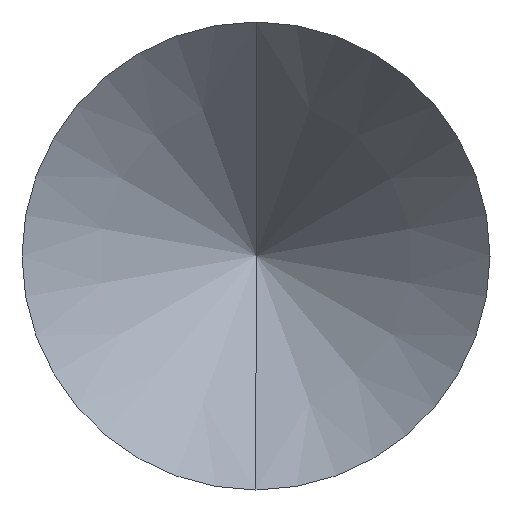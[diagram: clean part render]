
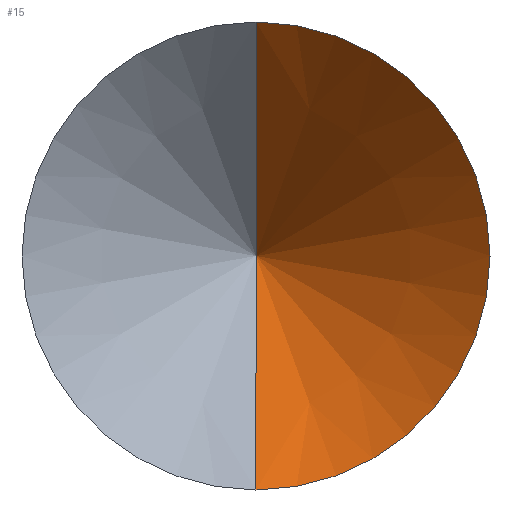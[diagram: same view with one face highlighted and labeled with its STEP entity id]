
A CAD part, left-side view. The second image highlights one B-rep face of the part: STEP entity #15.
In plain terms, the highlighted conical face has half-angle 45 degrees and reference radius 1000 mm.
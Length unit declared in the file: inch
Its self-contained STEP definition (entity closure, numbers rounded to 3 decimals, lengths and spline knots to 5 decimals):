
#7 = CIRCLE ( 'NONE', #949, 0.0175 ) ;
#15 = ADVANCED_FACE ( 'NONE', ( #400 ), #516, .F. ) ;
#18 = LINE ( 'NONE', #926, #696 ) ;
#53 = VECTOR ( 'NONE', #517, 39.37008 ) ;
#83 = VERTEX_POINT ( 'NONE', #612 ) ;
#125 = EDGE_CURVE ( 'NONE', #83, #327, #666, .T. ) ;
#134 = DIRECTION ( 'NONE',  ( -1., 0., 0. ) ) ;
#165 = DIRECTION ( 'NONE',  ( -0.707, 0., 0.707 ) ) ;
#218 = DIRECTION ( 'NONE',  ( 0., 0., 1. ) ) ;
#220 = DIRECTION ( 'NONE',  ( 0., 0., 1. ) ) ;
#242 = DIRECTION ( 'NONE',  ( -1., 0., 0. ) ) ;
#308 = VERTEX_POINT ( 'NONE', #993 ) ;
#312 = AXIS2_PLACEMENT_3D ( 'NONE', #767, #134, #220 ) ;
#315 = CARTESIAN_POINT ( 'NONE',  ( 0., 0., 0. ) ) ;
#321 = EDGE_CURVE ( 'NONE', #327, #308, #7, .T. ) ;
#324 = ORIENTED_EDGE ( 'NONE', *, *, #321, .T. ) ;
#327 = VERTEX_POINT ( 'NONE', #495 ) ;
#331 = CARTESIAN_POINT ( 'NONE',  ( -39.35258, 0., 0. ) ) ;
#400 = FACE_OUTER_BOUND ( 'NONE', #901, .T. ) ;
#427 = CARTESIAN_POINT ( 'NONE',  ( 0.0175, 0., 0. ) ) ;
#455 = ORIENTED_EDGE ( 'NONE', *, *, #973, .F. ) ;
#495 = CARTESIAN_POINT ( 'NONE',  ( 0., 0., -0.0175 ) ) ;
#516 = CONICAL_SURFACE ( 'NONE', #954, 39.37008, 0.785 ) ;
#517 = DIRECTION ( 'NONE',  ( -0.707, 0., -0.707 ) ) ;
#562 = DIRECTION ( 'NONE',  ( -1., 0., 0. ) ) ;
#612 = CARTESIAN_POINT ( 'NONE',  ( 0.0175, 0., 0. ) ) ;
#628 = VERTEX_POINT ( 'NONE', #814 ) ;
#640 = DIRECTION ( 'NONE',  ( 0., 0., 1. ) ) ;
#666 = LINE ( 'NONE', #427, #53 ) ;
#696 = VECTOR ( 'NONE', #165, 39.37008 ) ;
#767 = CARTESIAN_POINT ( 'NONE',  ( 0., 0., 0. ) ) ;
#783 = ORIENTED_EDGE ( 'NONE', *, *, #874, .T. ) ;
#814 = CARTESIAN_POINT ( 'NONE',  ( 0., 0., 0.0175 ) ) ;
#874 = EDGE_CURVE ( 'NONE', #308, #628, #944, .T. ) ;
#883 = ORIENTED_EDGE ( 'NONE', *, *, #125, .T. ) ;
#901 = EDGE_LOOP ( 'NONE', ( #455, #883, #324, #783 ) ) ;
#926 = CARTESIAN_POINT ( 'NONE',  ( 0.0175, 0., 0. ) ) ;
#944 = CIRCLE ( 'NONE', #312, 0.0175 ) ;
#949 = AXIS2_PLACEMENT_3D ( 'NONE', #315, #242, #218 ) ;
#954 = AXIS2_PLACEMENT_3D ( 'NONE', #331, #562, #640 ) ;
#973 = EDGE_CURVE ( 'NONE', #83, #628, #18, .T. ) ;
#993 = CARTESIAN_POINT ( 'NONE',  ( 0., -0.0175, 0. ) ) ;
